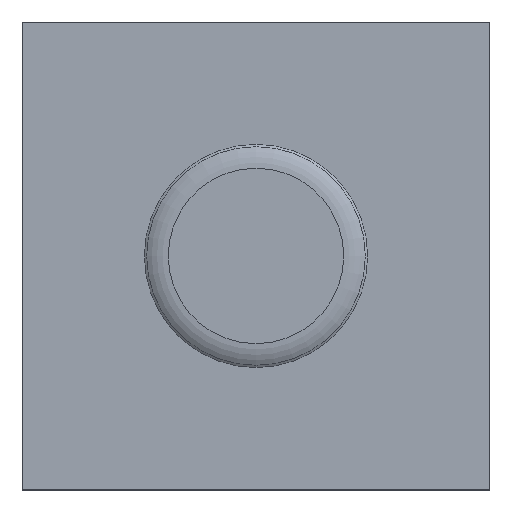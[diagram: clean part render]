
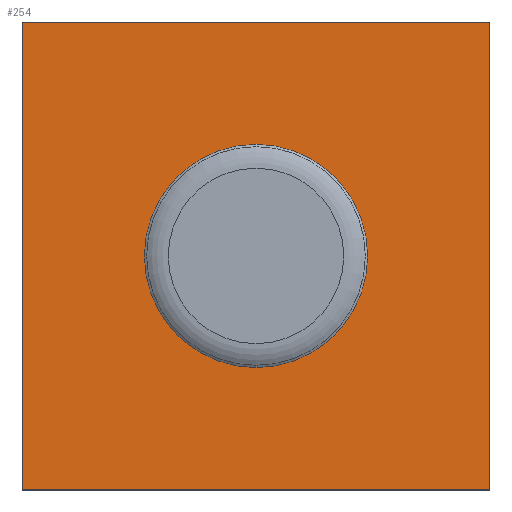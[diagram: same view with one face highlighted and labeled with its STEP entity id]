
A CAD part, top view. The second image highlights one B-rep face of the part: STEP entity #254.
In plain terms, the highlighted planar face has unit normal (0, 0, 1).
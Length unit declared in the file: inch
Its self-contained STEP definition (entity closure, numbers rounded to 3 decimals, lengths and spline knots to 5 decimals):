
#136=CARTESIAN_POINT('',(-4.0245,-7.4115,-12.177));
#137=VERTEX_POINT('',#136);
#145=CARTESIAN_POINT('',(-5.0245,-7.4115,-12.177));
#146=VERTEX_POINT('',#145);
#153=CARTESIAN_POINT('',(0.,-7.4115,-12.177));
#154=DIRECTION('',(-1.,0.,0.));
#155=VECTOR('',#154,1.);
#156=LINE('',#153,#155);
#157=EDGE_CURVE('',#137,#146,#156,.T.);
#169=CARTESIAN_POINT('',(-5.0245,-8.4115,-12.177));
#170=VERTEX_POINT('',#169);
#177=CARTESIAN_POINT('',(-5.0245,0.,-12.177));
#178=DIRECTION('',(0.,-1.,0.));
#179=VECTOR('',#178,1.);
#180=LINE('',#177,#179);
#181=EDGE_CURVE('',#146,#170,#180,.T.);
#193=CARTESIAN_POINT('',(-4.0245,-8.4115,-12.177));
#194=VERTEX_POINT('',#193);
#201=CARTESIAN_POINT('',(0.,-8.4115,-12.177));
#202=DIRECTION('',(1.,0.,0.));
#203=VECTOR('',#202,1.);
#204=LINE('',#201,#203);
#205=EDGE_CURVE('',#170,#194,#204,.T.);
#216=CARTESIAN_POINT('',(-4.0245,0.,-12.177));
#217=DIRECTION('',(0.,1.,0.));
#218=VECTOR('',#217,1.);
#219=LINE('',#216,#218);
#220=EDGE_CURVE('',#194,#137,#219,.T.);
#232=ORIENTED_EDGE('',*,*,#157,.T.);
#233=ORIENTED_EDGE('',*,*,#181,.T.);
#234=ORIENTED_EDGE('',*,*,#205,.T.);
#235=ORIENTED_EDGE('',*,*,#220,.T.);
#236=EDGE_LOOP('',(#232,#233,#234,#235));
#237=FACE_OUTER_BOUND('',#236,.T.);
#238=CARTESIAN_POINT('',(-4.5245,-7.67307,-12.177));
#239=VERTEX_POINT('',#238);
#240=CARTESIAN_POINT('',(-4.5245,-7.9115,-12.177));
#241=DIRECTION('',(0.,0.,1.));
#242=DIRECTION('',(0.,1.,0.));
#243=AXIS2_PLACEMENT_3D('',#240,#241,#242);
#244=CIRCLE('',#243,0.23843);
#245=EDGE_CURVE('',#239,#239,#244,.T.);
#246=ORIENTED_EDGE('',*,*,#245,.F.);
#247=EDGE_LOOP('',(#246));
#248=FACE_BOUND('',#247,.T.);
#249=CARTESIAN_POINT('',(-4.8485,-12.7635,-12.177));
#250=DIRECTION('',(0.,0.,-1.));
#251=DIRECTION('',(0.,1.,0.));
#252=AXIS2_PLACEMENT_3D('',#249,#250,#251);
#253=PLANE('',#252);
#254=ADVANCED_FACE('',(#237,#248),#253,.F.);
